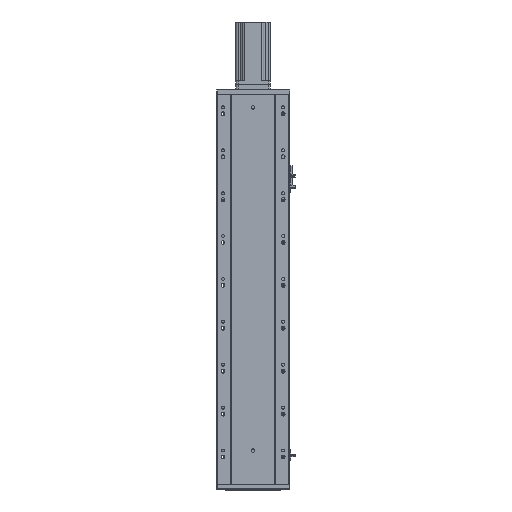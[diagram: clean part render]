
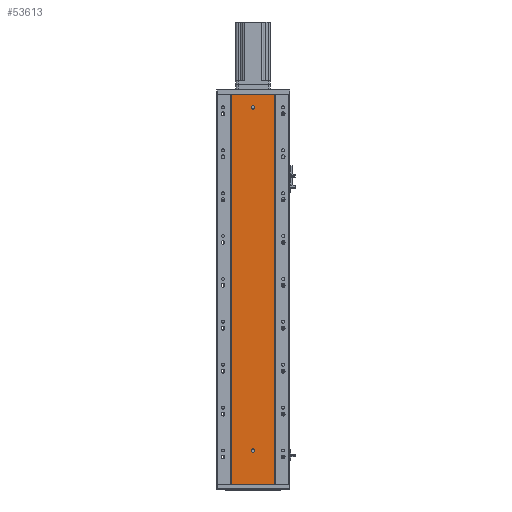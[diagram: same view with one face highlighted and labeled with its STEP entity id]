
A CAD part, front view. The second image highlights one B-rep face of the part: STEP entity #53613.
In plain terms, the highlighted planar face has unit normal (0, -1, 0).
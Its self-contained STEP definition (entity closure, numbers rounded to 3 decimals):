
#203 = EDGE_CURVE ( 'NONE', #57503, #18594, #62889, .T. ) ;
#1415 = DIRECTION ( 'NONE',  ( 0., -1., 0. ) ) ;
#2273 = CARTESIAN_POINT ( 'NONE',  ( 86.97, 79.476, 0. ) ) ;
#5821 = DIRECTION ( 'NONE',  ( 0., 0., -1. ) ) ;
#8567 = CARTESIAN_POINT ( 'NONE',  ( 185.97, 79.476, 0. ) ) ;
#11291 = EDGE_CURVE ( 'NONE', #61992, #49431, #46383, .T. ) ;
#11773 = DIRECTION ( 'NONE',  ( 0., -1., 0. ) ) ;
#12555 = CARTESIAN_POINT ( 'NONE',  ( 136.47, 79.476, 876. ) ) ;
#12631 = CARTESIAN_POINT ( 'NONE',  ( 136.47, 79.476, 884. ) ) ;
#12725 = EDGE_LOOP ( 'NONE', ( #41261, #69763, #36185, #63360 ) ) ;
#14332 = VERTEX_POINT ( 'NONE', #46497 ) ;
#15275 = DIRECTION ( 'NONE',  ( 0., -1., 0. ) ) ;
#18594 = VERTEX_POINT ( 'NONE', #12555 ) ;
#19328 = DIRECTION ( 'NONE',  ( 0., 1., 0. ) ) ;
#19579 = PLANE ( 'NONE',  #31660 ) ;
#19972 = CARTESIAN_POINT ( 'NONE',  ( 136.47, 79.476, 880. ) ) ;
#20358 = CARTESIAN_POINT ( 'NONE',  ( 0., 79.476, 0. ) ) ;
#21331 = EDGE_CURVE ( 'NONE', #59780, #14332, #67946, .T. ) ;
#23303 = AXIS2_PLACEMENT_3D ( 'NONE', #34449, #46643, #68081 ) ;
#23894 = CARTESIAN_POINT ( 'NONE',  ( 136.47, 79.476, 76. ) ) ;
#23921 = ORIENTED_EDGE ( 'NONE', *, *, #11291, .F. ) ;
#24689 = CARTESIAN_POINT ( 'NONE',  ( 86.97, 79.476, 910. ) ) ;
#25131 = CARTESIAN_POINT ( 'NONE',  ( 0., 79.476, 910. ) ) ;
#25168 = DIRECTION ( 'NONE',  ( 0., 0., 1. ) ) ;
#28510 = CIRCLE ( 'NONE', #46581, 4. ) ;
#29193 = B_SPLINE_CURVE_WITH_KNOTS ( 'NONE', 3,
 ( #36656, #64174, #36898, #8567 ),
 .UNSPECIFIED., .F., .F.,
 ( 4, 4 ),
 ( 0., 1. ),
 .UNSPECIFIED. ) ;
#30030 = CARTESIAN_POINT ( 'NONE',  ( 86.97, 79.476, 910. ) ) ;
#30787 = DIRECTION ( 'NONE',  ( 1., 0., 0. ) ) ;
#31660 = AXIS2_PLACEMENT_3D ( 'NONE', #53278, #19328, #25168 ) ;
#31741 = CARTESIAN_POINT ( 'NONE',  ( 136.47, 79.476, 84. ) ) ;
#33442 = ORIENTED_EDGE ( 'NONE', *, *, #37121, .F. ) ;
#34449 = CARTESIAN_POINT ( 'NONE',  ( 136.47, 79.476, 80. ) ) ;
#35705 = CARTESIAN_POINT ( 'NONE',  ( 86.97, 79.476, 303.333 ) ) ;
#36185 = ORIENTED_EDGE ( 'NONE', *, *, #52326, .F. ) ;
#36573 = ORIENTED_EDGE ( 'NONE', *, *, #203, .F. ) ;
#36656 = CARTESIAN_POINT ( 'NONE',  ( 185.97, 79.476, 910. ) ) ;
#36664 = CARTESIAN_POINT ( 'NONE',  ( 86.97, 79.476, 606.667 ) ) ;
#36840 = DIRECTION ( 'NONE',  ( 0., 0., -1. ) ) ;
#36898 = CARTESIAN_POINT ( 'NONE',  ( 185.97, 79.476, 303.333 ) ) ;
#37121 = EDGE_CURVE ( 'NONE', #18594, #57503, #68049, .T. ) ;
#37394 = EDGE_CURVE ( 'NONE', #59804, #59780, #41820, .T. ) ;
#37496 = ORIENTED_EDGE ( 'NONE', *, *, #41855, .F. ) ;
#39516 = FACE_BOUND ( 'NONE', #72428, .T. ) ;
#41261 = ORIENTED_EDGE ( 'NONE', *, *, #21331, .T. ) ;
#41820 = B_SPLINE_CURVE_WITH_KNOTS ( 'NONE', 3,
 ( #30030, #36664, #35705, #63935 ),
 .UNSPECIFIED., .F., .F.,
 ( 4, 4 ),
 ( 0., 1. ),
 .UNSPECIFIED. ) ;
#41855 = EDGE_CURVE ( 'NONE', #49431, #61992, #28510, .T. ) ;
#43188 = LINE ( 'NONE', #25131, #69313 ) ;
#45256 = DIRECTION ( 'NONE',  ( 0., 0., -1. ) ) ;
#46383 = CIRCLE ( 'NONE', #23303, 4. ) ;
#46497 = CARTESIAN_POINT ( 'NONE',  ( 185.97, 79.476, 0. ) ) ;
#46581 = AXIS2_PLACEMENT_3D ( 'NONE', #56825, #1415, #5821 ) ;
#46643 = DIRECTION ( 'NONE',  ( 0., -1., 0. ) ) ;
#49431 = VERTEX_POINT ( 'NONE', #23894 ) ;
#52326 = EDGE_CURVE ( 'NONE', #59804, #64130, #43188, .T. ) ;
#53278 = CARTESIAN_POINT ( 'NONE',  ( 0., 79.476, 910. ) ) ;
#53330 = EDGE_LOOP ( 'NONE', ( #37496, #23921 ) ) ;
#53613 = ADVANCED_FACE ( 'NONE', ( #39516, #67421, #69171 ), #19579, .F. ) ;
#56825 = CARTESIAN_POINT ( 'NONE',  ( 136.47, 79.476, 80. ) ) ;
#57099 = EDGE_CURVE ( 'NONE', #64130, #14332, #29193, .T. ) ;
#57503 = VERTEX_POINT ( 'NONE', #12631 ) ;
#58685 = DIRECTION ( 'NONE',  ( 1., 0., 0. ) ) ;
#59209 = VECTOR ( 'NONE', #58685, 1000. ) ;
#59780 = VERTEX_POINT ( 'NONE', #2273 ) ;
#59804 = VERTEX_POINT ( 'NONE', #24689 ) ;
#61311 = CARTESIAN_POINT ( 'NONE',  ( 136.47, 79.476, 880. ) ) ;
#61992 = VERTEX_POINT ( 'NONE', #31741 ) ;
#62278 = AXIS2_PLACEMENT_3D ( 'NONE', #19972, #15275, #36840 ) ;
#62889 = CIRCLE ( 'NONE', #62278, 4. ) ;
#63360 = ORIENTED_EDGE ( 'NONE', *, *, #37394, .T. ) ;
#63627 = AXIS2_PLACEMENT_3D ( 'NONE', #61311, #11773, #45256 ) ;
#63935 = CARTESIAN_POINT ( 'NONE',  ( 86.97, 79.476, 0. ) ) ;
#64130 = VERTEX_POINT ( 'NONE', #69391 ) ;
#64174 = CARTESIAN_POINT ( 'NONE',  ( 185.97, 79.476, 606.667 ) ) ;
#67421 = FACE_BOUND ( 'NONE', #53330, .T. ) ;
#67946 = LINE ( 'NONE', #20358, #59209 ) ;
#68049 = CIRCLE ( 'NONE', #63627, 4. ) ;
#68081 = DIRECTION ( 'NONE',  ( 0., 0., -1. ) ) ;
#69171 = FACE_OUTER_BOUND ( 'NONE', #12725, .T. ) ;
#69313 = VECTOR ( 'NONE', #30787, 1000. ) ;
#69391 = CARTESIAN_POINT ( 'NONE',  ( 185.97, 79.476, 910. ) ) ;
#69763 = ORIENTED_EDGE ( 'NONE', *, *, #57099, .F. ) ;
#72428 = EDGE_LOOP ( 'NONE', ( #33442, #36573 ) ) ;
